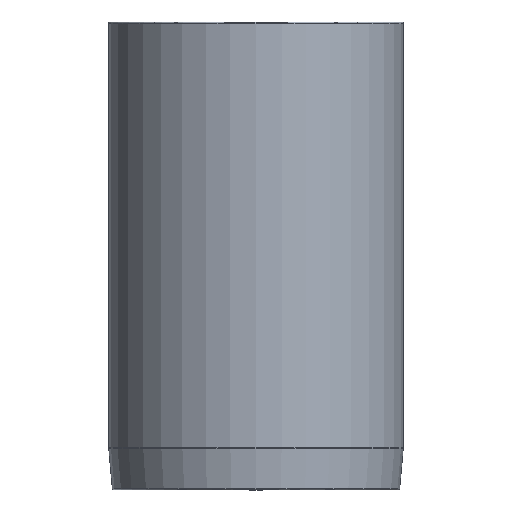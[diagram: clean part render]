
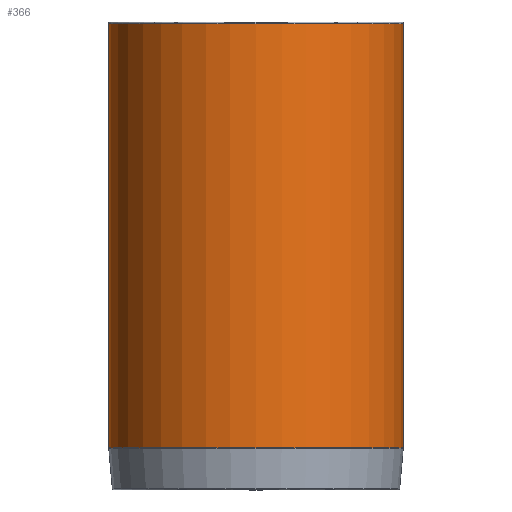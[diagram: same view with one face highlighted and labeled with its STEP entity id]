
A CAD part, front view. The second image highlights one B-rep face of the part: STEP entity #366.
In plain terms, the highlighted cylindrical face has radius 45.625 mm (diameter 91.25 mm), a partial arc.
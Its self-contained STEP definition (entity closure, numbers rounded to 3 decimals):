
#271=CARTESIAN_POINT('',(0.0,-45.625,72.5));
#272=VERTEX_POINT('',#271);
#298=CARTESIAN_POINT('',(-45.625,0.,72.5));
#299=VERTEX_POINT('',#298);
#307=CARTESIAN_POINT('',(0.0,0.,72.5));
#308=DIRECTION('',(0.0,0.0,1.0));
#309=DIRECTION('',(1.0,0.0,0.0));
#310=AXIS2_PLACEMENT_3D('',#307,#308,#309);
#311=CIRCLE('',#310,45.625);
#312=EDGE_CURVE('',#299,#272,#311,.T.);
#317=CARTESIAN_POINT('',(0.0,0.,6.772));
#318=DIRECTION('',(0.0,0.,1.0));
#319=DIRECTION('',(1.0,0.0,0.0));
#320=AXIS2_PLACEMENT_3D('',#317,#318,#319);
#321=CYLINDRICAL_SURFACE('',#320,45.625);
#322=CARTESIAN_POINT('',(45.625,0.,72.5));
#323=VERTEX_POINT('',#322);
#324=CARTESIAN_POINT('',(45.625,0.,-58.956));
#325=VERTEX_POINT('',#324);
#326=CARTESIAN_POINT('',(45.625,0.,72.5));
#327=DIRECTION('',(0.0,0.0,-1.0));
#328=VECTOR('',#327,131.456);
#329=LINE('',#326,#328);
#330=EDGE_CURVE('',#323,#325,#329,.T.);
#331=ORIENTED_EDGE('',*,*,#330,.F.);
#332=CARTESIAN_POINT('',(0.0,0.,72.5));
#333=DIRECTION('',(0.0,0.0,1.0));
#334=DIRECTION('',(1.0,0.0,0.0));
#335=AXIS2_PLACEMENT_3D('',#332,#333,#334);
#336=CIRCLE('',#335,45.625);
#337=EDGE_CURVE('',#272,#323,#336,.T.);
#338=ORIENTED_EDGE('',*,*,#337,.F.);
#339=ORIENTED_EDGE('',*,*,#312,.F.);
#340=CARTESIAN_POINT('',(-45.625,0.,-58.956));
#341=VERTEX_POINT('',#340);
#342=CARTESIAN_POINT('',(-45.625,0.,72.5));
#343=DIRECTION('',(0.0,0.0,-1.0));
#344=VECTOR('',#343,131.456);
#345=LINE('',#342,#344);
#346=EDGE_CURVE('',#299,#341,#345,.T.);
#347=ORIENTED_EDGE('',*,*,#346,.T.);
#348=CARTESIAN_POINT('',(0.0,-45.625,-58.956));
#349=VERTEX_POINT('',#348);
#350=CARTESIAN_POINT('',(0.0,0.,-58.956));
#351=DIRECTION('',(0.0,0.0,1.0));
#352=DIRECTION('',(1.0,0.0,0.0));
#353=AXIS2_PLACEMENT_3D('',#350,#351,#352);
#354=CIRCLE('',#353,45.625);
#355=EDGE_CURVE('',#341,#349,#354,.T.);
#356=ORIENTED_EDGE('',*,*,#355,.T.);
#357=CARTESIAN_POINT('',(0.0,0.,-58.956));
#358=DIRECTION('',(0.0,0.0,1.0));
#359=DIRECTION('',(1.0,0.0,0.0));
#360=AXIS2_PLACEMENT_3D('',#357,#358,#359);
#361=CIRCLE('',#360,45.625);
#362=EDGE_CURVE('',#349,#325,#361,.T.);
#363=ORIENTED_EDGE('',*,*,#362,.T.);
#364=EDGE_LOOP('',(#331,#338,#339,#347,#356,#363));
#365=FACE_OUTER_BOUND('',#364,.T.);
#366=ADVANCED_FACE('',(#365),#321,.T.);
